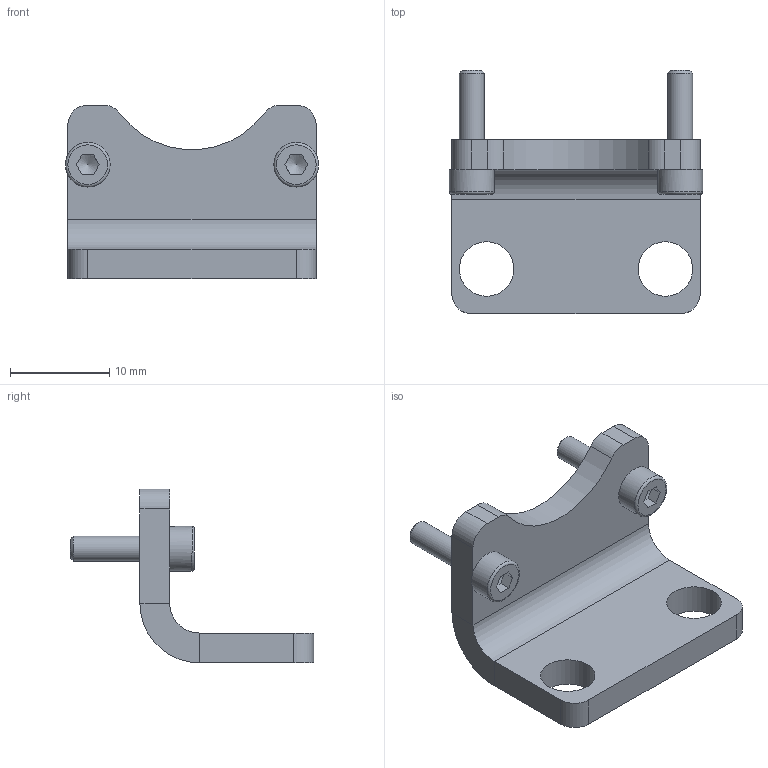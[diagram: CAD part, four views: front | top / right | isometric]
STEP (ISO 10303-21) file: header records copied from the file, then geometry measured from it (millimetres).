
FILE_DESCRIPTION(/* description */ (''),/* implementation_level */ '2;1');
FILE_NAME(/* name */ 'C:\Users\probic.HYPEX\Desktop\3d feldin\izvoz\CAD_108253_F.stp',/* time_stamp */ '2021-01-19T10:14:14+01:00',/* author */ ('Hypex'),/* organization */ ('Hypex'),/* preprocessor_version */ 'ST-DEVELOPER v18',/* originating_system */ 'Autodesk Inventor 2020',/* authorisation */ '');
FILE_SCHEMA (('AUTOMOTIVE_DESIGN { 1 0 10303 214 3 1 1 }'));
Length unit declared in the file: millimetre
Products named in the file (1): CAD_108253_F
Bounding box: 25.5 x 24.5 x 17.5 mm (x, y, z)
Volume: 2082.5 mm3; surface area: 2026.4 mm2
Topology: 1 solids, 1 shells, 58 faces, 156 edges, 104 vertices
Faces by surface type: plane 33, cylinder 17, torus 4, cone 4
Full cylindrical faces by diameter (mm): 2.5 x2, 2.8 x2, 4.5 x2, 5.5 x2
Entity records: 1947 total; most frequent: CARTESIAN_POINT 345, DIRECTION 324, ORIENTED_EDGE 308, EDGE_CURVE 154, AXIS2_PLACEMENT_3D 125, VERTEX_POINT 104, LINE 74, VECTOR 74
